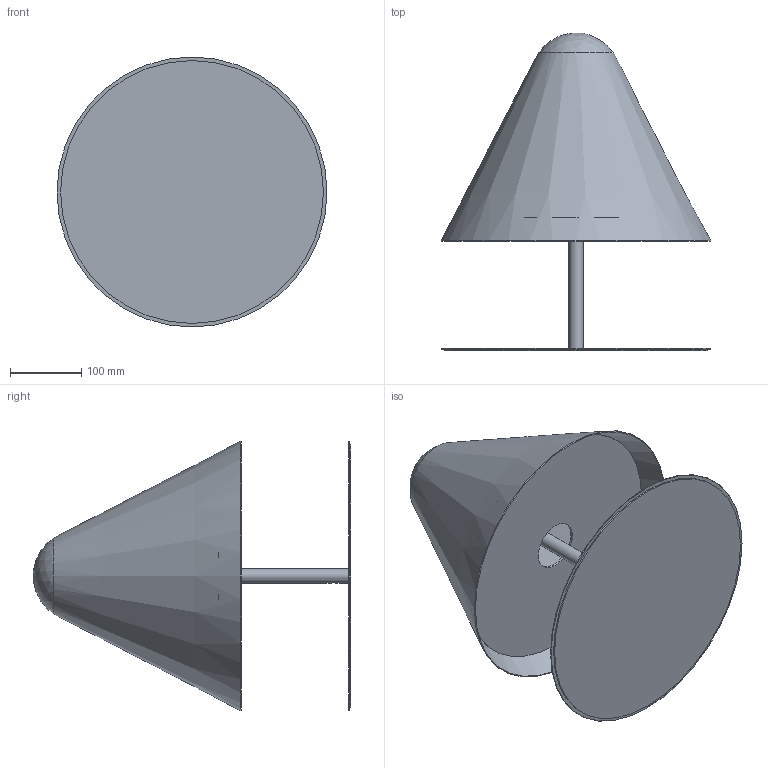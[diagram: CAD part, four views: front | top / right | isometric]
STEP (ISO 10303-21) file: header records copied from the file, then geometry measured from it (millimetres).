
FILE_DESCRIPTION(/* description */ (''),/* implementation_level */ '2;1');
FILE_NAME(/* name */ 'C:\Users\Giulia\Desktop\1463 - ABA 45.stp',/* time_stamp */ '2015-04-23T09:54:18+02:00',/* author */ ('Giulia'),/* organization */ (''),/* preprocessor_version */ 'ST-DEVELOPER v15.6',/* originating_system */ 'Autodesk Inventor 2015',/* authorisation */ '');
FILE_SCHEMA (('AUTOMOTIVE_DESIGN { 1 0 10303 214 3 1 1 }'));
Length unit declared in the file: centimetre
Products named in the file (1): 1463 - ABA 45
Bounding box: 380 x 447.06 x 380 mm (x, y, z)
Volume: 970629.1 mm3; surface area: 962873.4 mm2
Topology: 3 solids, 5 shells, 52 faces, 99 edges, 57 vertices
Faces by surface type: cone 15, bspline 12, cylinder 12, plane 10, torus 2, sphere 1
Full cylindrical faces by diameter (mm): 5 x1, 6.75 x1, 17 x1, 20 x1, 25.307 x1, 35 x1, 39 x1, 40.94 x1, 68 x1, 343 x1, 370 x1, 380 x1
Entity records: 1601 total; most frequent: CARTESIAN_POINT 695, DIRECTION 186, ORIENTED_EDGE 130, AXIS2_PLACEMENT_3D 93, EDGE_LOOP 90, EDGE_CURVE 66, VERTEX_POINT 54, CIRCLE 52
